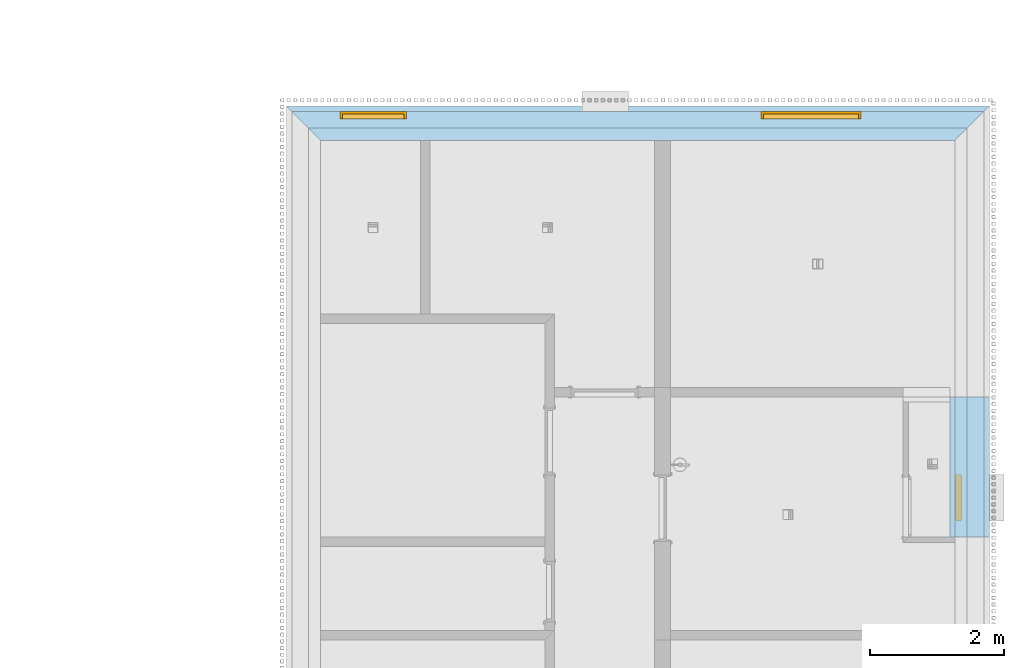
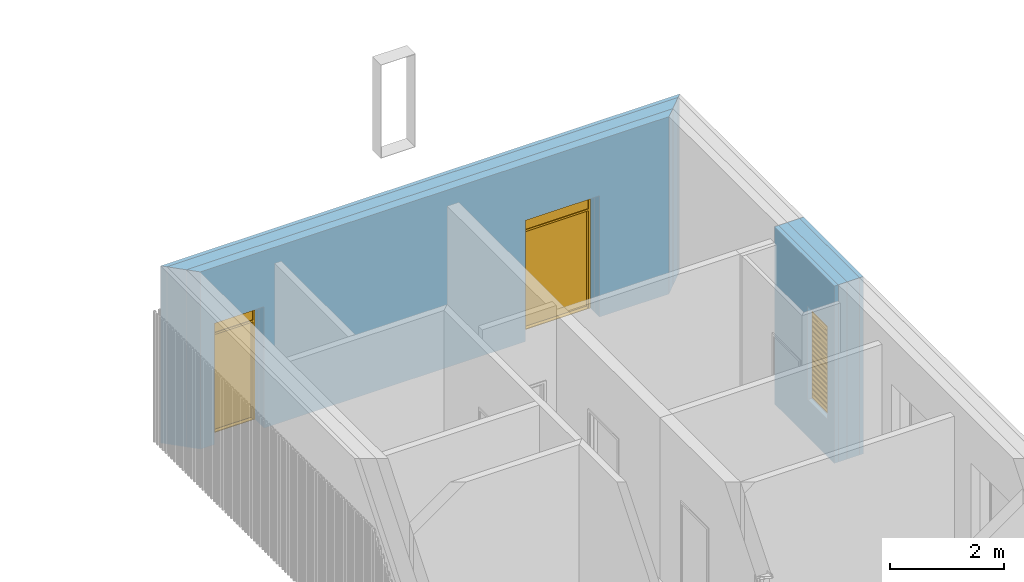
# One storey, part 57 of 112: 2 doors, 1 window, 3 openings, 2 elements without a shape of their own, plus 7 elements that do not belong to this part.
"""IFC2X3 building model written with IfcOpenShell, lengths in millimetres."""

from ifc_helpers import new_model, entity, si_unit, converted_unit, derived_unit, money_unit, direction, frame, origin_with_axes, origin_2d_with_axis, place, context, subcontext, project, spatial, polyline, rectangle, outline, extrude, open_shell, faceted_brep, surface_model, material, type_object, element, fill, aggregate, save


model = new_model("IFC2X3")

# Units and contexts
model_context = context("Model", 3, precision=0.01, world=origin_with_axes(), true_north=direction((0.0, 1.0)))
body_context = subcontext(model_context, "Body", "Model", "MODEL_VIEW")
ifc_project = project(units=[si_unit("LENGTHUNIT", "METRE", prefix="MILLI"), si_unit("AREAUNIT", "SQUARE_METRE"), si_unit("VOLUMEUNIT", "CUBIC_METRE"), converted_unit("PLANEANGLEUNIT", "DEGREE", entity("IfcPlaneAngleMeasure", 0.0174532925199), si_unit("PLANEANGLEUNIT", "RADIAN"), dimensions=[0, 0, 0, 0, 0, 0, 0]), si_unit("SOLIDANGLEUNIT", "STERADIAN"), money_unit("EUR"), converted_unit("TIMEUNIT", "Year", entity("IfcTimeMeasure", 31556926.0), si_unit("TIMEUNIT", "SECOND"), dimensions=[0, 0, 1, 0, 0, 0, 0]), si_unit("MASSUNIT", "GRAM", prefix="KILO"), si_unit("THERMODYNAMICTEMPERATUREUNIT", "DEGREE_CELSIUS"), si_unit("LUMINOUSINTENSITYUNIT", "LUMEN"), si_unit("ENERGYUNIT", "JOULE", prefix="MEGA"), derived_unit("THERMALCONDUCTANCEUNIT", [(si_unit("POWERUNIT", "WATT"), 1), (si_unit("LENGTHUNIT", "METRE"), -1), (si_unit("THERMODYNAMICTEMPERATUREUNIT", "KELVIN"), -1)]), derived_unit("SPECIFICHEATCAPACITYUNIT", [(si_unit("ENERGYUNIT", "JOULE"), 1), (si_unit("MASSUNIT", "GRAM", prefix="KILO"), -1), (si_unit("THERMODYNAMICTEMPERATUREUNIT", "KELVIN"), -1)]), derived_unit("MASSDENSITYUNIT", [(si_unit("MASSUNIT", "GRAM", prefix="KILO"), 1), (si_unit("VOLUMEUNIT", "CUBIC_METRE"), -1)])], contexts=[model_context])

# Site, building, storey
site_placement = place(None, origin_with_axes())
site = spatial("IfcSite", under=ifc_project, at=site_placement, Name="Politse- ja Piirivalveameti ning Päästeameti ühishoone", CompositionType="ELEMENT")
building_placement = place(site_placement, origin_with_axes())
building = spatial("IfcBuilding", under=site, at=building_placement, Name="Politse- ja Piirivalveameti ning Päästeameti ühishoone", CompositionType="ELEMENT")
storey_placement = place(building_placement, origin_with_axes())
storey = spatial("IfcBuildingStorey", under=building, at=storey_placement, Name="Esimene korrus", CompositionType="ELEMENT", Elevation=0.0)

# Door
door_style_1 = type_object("IfcDoorStyle", Name="Double Door with Transom 23", ConstructionType="NOTDEFINED", OperationType="DOUBLE_DOOR_SINGLE_SWING", ParameterTakesPrecedence=False, Sizeable=False)
wall_1_placement = place(storey_placement, frame((69660.5664257, 37499.9521318, 0.0), z_axis=(0.0, 0.0, 1.0), x_axis=(-1.0, 0.0, 0.0)))
opening_1_placement = place(wall_1_placement, frame((2160.47469608, 0.0, 0.0), z_axis=(0.0, 0.0, 1.0), x_axis=(1.0, 0.0, 0.0)))
door_1_placement = place(opening_1_placement, frame((750.0, 0.0, 0.0), z_axis=(0.0, 0.0, 1.0), x_axis=(-1.0, 0.0, 0.0)))
door_1 = element("IfcDoor", 1, at=door_1_placement, inside=storey, type_object=door_style_1, Name="VU-01", ObjectType="DOOR", OverallHeight=2600.0, OverallWidth=1500.0, context=body_context, shape_type="SurfaceModel", body=[
    faceted_brep([(1472.0, 390.0, 0.0), (1472.0, 390.0, 12.0), (1460.0, 390.0, 12.0), (1460.0, 390.0, 0.0), (28.0, 390.0, 0.0), (28.0, 390.0, 12.0), (40.0, 390.0, 12.0), (40.0, 315.0, 12.0), (1460.0, 315.0, 12.0), (1460.0, 315.0, 0.0), (40.0, 315.0, 0.0), (40.0, 390.0, 0.0)], [[[0, 1, 2, 3]], [[4, 5, 1, 0]], [[1, 5, 6, 7, 8, 2]], [[3, 2, 8, 9]], [[0, 3, 9, 10, 11, 4]], [[11, 6, 5, 4]], [[10, 7, 6, 11]], [[9, 8, 7, 10]]]),
    faceted_brep([(40.0, 390.0, 2112.0), (40.0, 430.0, 2112.0), (40.0, 430.0, 2140.0), (40.0, 315.0, 2140.0), (40.0, 315.0, 2100.0), (40.0, 315.0, 0.0), (40.0, 390.0, 0.0), (28.0, 390.0, 2112.0), (28.0, 430.0, 2112.0), (28.0, 430.0, 0.0), (0.0, 430.0, 0.0), (0.0, 430.0, 2560.0), (40.0, 430.0, 2560.0), (40.0, 315.0, 2560.0), (0.0, 315.0, 2560.0), (0.0, 315.0, 0.0), (28.0, 390.0, 0.0)], [[[0, 1, 2, 3, 4, 5, 6]], [[1, 0, 7, 8]], [[8, 9, 10, 11, 12, 2, 1]], [[12, 13, 3, 2]], [[3, 13, 14, 15, 5, 4]], [[16, 6, 5, 15, 10, 9]], [[0, 6, 16, 7]], [[9, 8, 7, 16]], [[10, 15, 14, 11]], [[11, 14, 13, 12]]]),
    faceted_brep([(1472.0, 430.0, 2112.0), (1460.0, 430.0, 2112.0), (1460.0, 430.0, 2140.0), (1460.0, 430.0, 2560.0), (1500.0, 430.0, 2560.0), (1500.0, 430.0, 0.0), (1472.0, 430.0, 0.0), (1472.0, 390.0, 2112.0), (1460.0, 390.0, 2112.0), (1460.0, 390.0, 0.0), (1460.0, 315.0, 0.0), (1460.0, 315.0, 2100.0), (1460.0, 315.0, 2140.0), (1460.0, 315.0, 2560.0), (1500.0, 315.0, 2560.0), (1500.0, 315.0, 0.0), (1472.0, 390.0, 0.0)], [[[0, 1, 2, 3, 4, 5, 6]], [[1, 0, 7, 8]], [[8, 9, 10, 11, 12, 2, 1]], [[2, 12, 13, 3]], [[3, 13, 14, 4]], [[4, 14, 15, 5]], [[16, 6, 5, 15, 10, 9]], [[0, 6, 16, 7]], [[16, 9, 8, 7]], [[12, 11, 10, 15, 14, 13]]]),
    faceted_brep([(0.0, 430.0, 2600.0), (0.0, 430.0, 2560.0), (0.0, 315.0, 2560.0), (0.0, 315.0, 2600.0), (1500.0, 430.0, 2600.0), (1500.0, 430.0, 2560.0), (1460.0, 430.0, 2560.0), (40.0, 430.0, 2560.0), (40.0, 315.0, 2560.0), (1460.0, 315.0, 2560.0), (1500.0, 315.0, 2560.0), (1500.0, 315.0, 2600.0)], [[[0, 1, 2, 3]], [[0, 4, 5, 6, 7, 1]], [[1, 7, 8, 2]], [[3, 2, 8, 9, 10, 11]], [[4, 0, 3, 11]], [[5, 4, 11, 10]], [[6, 5, 10, 9]], [[7, 6, 9, 8]]]),
    faceted_brep([(1460.0, 390.0, 2112.0), (1460.0, 430.0, 2112.0), (1460.0, 430.0, 2140.0), (1460.0, 315.0, 2140.0), (1460.0, 315.0, 2100.0), (1460.0, 390.0, 2100.0), (40.0, 390.0, 2112.0), (40.0, 430.0, 2112.0), (40.0, 430.0, 2140.0), (40.0, 315.0, 2140.0), (40.0, 315.0, 2100.0), (40.0, 390.0, 2100.0)], [[[0, 1, 2, 3, 4, 5]], [[1, 0, 6, 7]], [[1, 7, 8, 2]], [[8, 9, 3, 2]], [[10, 4, 3, 9]], [[11, 5, 4, 10]], [[0, 5, 11, 6]], [[6, 11, 10, 9, 8, 7]]]),
    faceted_brep([(1472.0, 430.0, 0.0), (1472.0, 390.0, 0.0), (900.0, 390.0, 0.0), (900.0, 430.0, 0.0), (1472.0, 430.0, 2112.0), (1472.0, 390.0, 2112.0), (900.0, 390.0, 2112.0), (900.0, 430.0, 2112.0)], [[[0, 1, 2, 3]], [[4, 5, 1, 0]], [[1, 5, 6, 2]], [[3, 2, 6, 7]], [[0, 3, 7, 4]], [[7, 6, 5, 4]]]),
    faceted_brep([(28.0, 430.0, 0.0), (900.0, 430.0, 0.0), (900.0, 390.0, 0.0), (28.0, 390.0, 0.0), (28.0, 430.0, 2112.0), (900.0, 430.0, 2112.0), (900.0, 390.0, 2112.0), (28.0, 390.0, 2112.0)], [[[0, 1, 2, 3]], [[0, 4, 5, 1]], [[1, 5, 6, 2]], [[3, 2, 6, 7]], [[4, 0, 3, 7]], [[5, 4, 7, 6]]]),
    surface_model("IfcShellBasedSurfaceModel", [(40.0, 339.0, 2140.0), (40.0, 339.0, 2560.0), (1460.0, 339.0, 2560.0), (1460.0, 339.0, 2140.0)], [open_shell([[[0, 1, 2, 3]]])]),
    surface_model("IfcShellBasedSurfaceModel", [(40.0, 327.0, 2140.0), (1460.0, 327.0, 2140.0), (1460.0, 327.0, 2560.0), (40.0, 327.0, 2560.0)], [open_shell([[[0, 1, 2, 3]]])]),
])

door_style_2 = type_object("IfcDoorStyle", Name="Door with Transom 23", ConstructionType="NOTDEFINED", OperationType="SINGLE_SWING_LEFT", ParameterTakesPrecedence=False, Sizeable=False)
opening_2_placement = place(wall_1_placement, frame((8710.42417731, 0.0, 0.0), z_axis=(0.0, 0.0, 1.0), x_axis=(1.0, 0.0, 0.0)))
door_2_placement = place(opening_2_placement, frame((500.0, 0.0, 0.0), z_axis=(0.0, 0.0, 1.0), x_axis=(-1.0, 0.0, 0.0)))
door_2 = element("IfcDoor", 2, at=door_2_placement, inside=storey, type_object=door_style_2, Name="VU-06", ObjectType="DOOR", OverallHeight=2600.0, OverallWidth=1000.0, context=body_context, shape_type="SurfaceModel", body=[
    faceted_brep([(28.0, 390.0, 0.0), (40.0, 390.0, 0.0), (40.0, 390.0, 12.0), (28.0, 390.0, 12.0), (972.0, 390.0, 0.0), (960.0, 390.0, 0.0), (960.0, 315.0, 0.0), (40.0, 315.0, 0.0), (40.0, 315.0, 12.0), (960.0, 315.0, 12.0), (960.0, 390.0, 12.0), (972.0, 390.0, 12.0)], [[[0, 1, 2, 3]], [[0, 4, 5, 6, 7, 1]], [[1, 7, 8, 2]], [[3, 2, 8, 9, 10, 11]], [[4, 0, 3, 11]], [[5, 4, 11, 10]], [[6, 5, 10, 9]], [[7, 6, 9, 8]]]),
    faceted_brep([(960.0, 390.0, 2112.0), (960.0, 390.0, 0.0), (960.0, 315.0, 0.0), (960.0, 315.0, 2100.0), (960.0, 315.0, 2140.0), (960.0, 430.0, 2140.0), (960.0, 430.0, 2112.0), (972.0, 390.0, 2112.0), (972.0, 390.0, 0.0), (972.0, 430.0, 0.0), (1000.0, 430.0, 0.0), (1000.0, 315.0, 0.0), (1000.0, 315.0, 2560.0), (960.0, 315.0, 2560.0), (960.0, 430.0, 2560.0), (972.0, 430.0, 2112.0), (1000.0, 430.0, 2560.0)], [[[0, 1, 2, 3, 4, 5, 6]], [[0, 7, 8, 1]], [[8, 9, 10, 11, 2, 1]], [[4, 3, 2, 11, 12, 13]], [[14, 5, 4, 13]], [[15, 6, 5, 14, 16, 10, 9]], [[6, 15, 7, 0]], [[9, 8, 7, 15]], [[10, 16, 12, 11]], [[16, 14, 13, 12]]]),
    faceted_brep([(28.0, 430.0, 2112.0), (28.0, 430.0, 0.0), (0.0, 430.0, 0.0), (0.0, 430.0, 2560.0), (40.0, 430.0, 2560.0), (40.0, 430.0, 2140.0), (40.0, 430.0, 2112.0), (28.0, 390.0, 2112.0), (28.0, 390.0, 0.0), (40.0, 390.0, 0.0), (40.0, 315.0, 0.0), (0.0, 315.0, 0.0), (0.0, 315.0, 2560.0), (40.0, 315.0, 2560.0), (40.0, 315.0, 2140.0), (40.0, 390.0, 2112.0), (40.0, 315.0, 2100.0)], [[[0, 1, 2, 3, 4, 5, 6]], [[0, 7, 8, 1]], [[8, 9, 10, 11, 2, 1]], [[3, 2, 11, 12]], [[4, 3, 12, 13]], [[5, 4, 13, 14]], [[15, 6, 5, 14, 16, 10, 9]], [[6, 15, 7, 0]], [[8, 7, 15, 9]], [[14, 13, 12, 11, 10, 16]]]),
    faceted_brep([(1000.0, 430.0, 2600.0), (1000.0, 315.0, 2600.0), (1000.0, 315.0, 2560.0), (1000.0, 430.0, 2560.0), (0.0, 430.0, 2600.0), (0.0, 315.0, 2600.0), (0.0, 315.0, 2560.0), (40.0, 315.0, 2560.0), (960.0, 315.0, 2560.0), (960.0, 430.0, 2560.0), (40.0, 430.0, 2560.0), (0.0, 430.0, 2560.0)], [[[0, 1, 2, 3]], [[4, 5, 1, 0]], [[1, 5, 6, 7, 8, 2]], [[3, 2, 8, 9]], [[0, 3, 9, 10, 11, 4]], [[11, 6, 5, 4]], [[10, 7, 6, 11]], [[9, 8, 7, 10]]]),
    faceted_brep([(40.0, 390.0, 2112.0), (40.0, 390.0, 2100.0), (40.0, 315.0, 2100.0), (40.0, 315.0, 2140.0), (40.0, 430.0, 2140.0), (40.0, 430.0, 2112.0), (960.0, 390.0, 2112.0), (960.0, 390.0, 2100.0), (960.0, 315.0, 2100.0), (960.0, 315.0, 2140.0), (960.0, 430.0, 2140.0), (960.0, 430.0, 2112.0)], [[[0, 1, 2, 3, 4, 5]], [[0, 6, 7, 1]], [[7, 8, 2, 1]], [[8, 9, 3, 2]], [[10, 4, 3, 9]], [[5, 4, 10, 11]], [[5, 11, 6, 0]], [[6, 11, 10, 9, 8, 7]]]),
    faceted_brep([(28.0, 430.0, 0.0), (972.0, 430.0, 0.0), (972.0, 390.0, 0.0), (28.0, 390.0, 0.0), (28.0, 430.0, 2112.0), (972.0, 430.0, 2112.0), (972.0, 390.0, 2112.0), (28.0, 390.0, 2112.0)], [[[0, 1, 2, 3]], [[0, 4, 5, 1]], [[1, 5, 6, 2]], [[3, 2, 6, 7]], [[4, 0, 3, 7]], [[5, 4, 7, 6]]]),
    surface_model("IfcShellBasedSurfaceModel", [(960.0, 339.0, 2140.0), (40.0, 339.0, 2140.0), (40.0, 339.0, 2560.0), (960.0, 339.0, 2560.0)], [open_shell([[[0, 1, 2, 3]]])]),
    surface_model("IfcShellBasedSurfaceModel", [(960.0, 327.0, 2140.0), (960.0, 327.0, 2560.0), (40.0, 327.0, 2560.0), (40.0, 327.0, 2140.0)], [open_shell([[[0, 1, 2, 3]]])]),
])

# Window
window_style = type_object("IfcWindowStyle", Name="Glass Block Wall 23", ConstructionType="NOTDEFINED", OperationType="USERDEFINED", ParameterTakesPrecedence=False, Sizeable=False)
wall_2_placement = place(storey_placement, frame((69660.5664204, 33660.0702441, 0.0), z_axis=(0.0, 0.0, 1.0), x_axis=(0.0, -1.0, 0.0)))
opening_3_placement = place(wall_2_placement, frame((1510.0, 0.0, 800.0), z_axis=(0.0, 0.0, 1.0), x_axis=(1.0, 0.0, 0.0)))
window_placement = place(opening_3_placement, frame((350.0, 0.0, 0.0), z_axis=(0.0, 0.0, 1.0), x_axis=(-1.0, 0.0, 0.0)))
window = element("IfcWindow", 3, at=window_placement, inside=storey, type_object=window_style, Name="VR-01", ObjectType="WINDOW", OverallHeight=2000.0, OverallWidth=700.0, context=body_context, shape_type="Brep", body=[
    faceted_brep([(700.0, -14.0, 0.0), (700.0, -84.0, 0.0), (0.0, -84.0, 0.0), (0.0, -14.0, 0.0), (700.0, -14.0, 2000.0), (700.0, -84.0, 2000.0), (0.0, -84.0, 2000.0), (675.0, -84.0, 30.0), (25.0, -84.0, 30.0), (25.0, -84.0, 103.684210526), (675.0, -84.0, 103.684210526), (675.0, -84.0, 133.684210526), (25.0, -84.0, 133.684210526), (25.0, -84.0, 207.368421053), (675.0, -84.0, 207.368421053), (675.0, -84.0, 237.368421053), (25.0, -84.0, 237.368421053), (25.0, -84.0, 311.052631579), (675.0, -84.0, 311.052631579), (675.0, -84.0, 341.052631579), (25.0, -84.0, 341.052631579), (25.0, -84.0, 414.736842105), (675.0, -84.0, 414.736842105), (675.0, -84.0, 444.736842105), (25.0, -84.0, 444.736842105), (25.0, -84.0, 518.421052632), (675.0, -84.0, 518.421052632), (675.0, -84.0, 548.421052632), (25.0, -84.0, 548.421052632), (25.0, -84.0, 622.105263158), (675.0, -84.0, 622.105263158), (675.0, -84.0, 652.105263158), (25.0, -84.0, 652.105263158), (25.0, -84.0, 725.789473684), (675.0, -84.0, 725.789473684), (675.0, -84.0, 755.789473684), (25.0, -84.0, 755.789473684), (25.0, -84.0, 829.473684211), (675.0, -84.0, 829.473684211), (675.0, -84.0, 859.473684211), (25.0, -84.0, 859.473684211), (25.0, -84.0, 933.157894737), (675.0, -84.0, 933.157894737), (675.0, -84.0, 963.157894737), (25.0, -84.0, 963.157894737), (25.0, -84.0, 1036.84210526), (675.0, -84.0, 1036.84210526), (675.0, -84.0, 1066.84210526), (25.0, -84.0, 1066.84210526), (25.0, -84.0, 1140.52631579), (675.0, -84.0, 1140.52631579), (675.0, -84.0, 1170.52631579), (25.0, -84.0, 1170.52631579), (25.0, -84.0, 1244.21052632), (675.0, -84.0, 1244.21052632), (675.0, -84.0, 1274.21052632), (25.0, -84.0, 1274.21052632), (25.0, -84.0, 1347.89473684), (675.0, -84.0, 1347.89473684), (675.0, -84.0, 1377.89473684), (25.0, -84.0, 1377.89473684), (25.0, -84.0, 1451.57894737), (675.0, -84.0, 1451.57894737), (675.0, -84.0, 1481.57894737), (25.0, -84.0, 1481.57894737), (25.0, -84.0, 1555.26315789), (675.0, -84.0, 1555.26315789), (675.0, -84.0, 1585.26315789), (25.0, -84.0, 1585.26315789), (25.0, -84.0, 1658.94736842), (675.0, -84.0, 1658.94736842), (675.0, -84.0, 1688.94736842), (25.0, -84.0, 1688.94736842), (25.0, -84.0, 1762.63157895), (675.0, -84.0, 1762.63157895), (675.0, -84.0, 1792.63157895), (25.0, -84.0, 1792.63157895), (25.0, -84.0, 1866.31578947), (675.0, -84.0, 1866.31578947), (675.0, -84.0, 1896.31578947), (25.0, -84.0, 1896.31578947), (25.0, -84.0, 1970.0), (675.0, -84.0, 1970.0), (0.0, -14.0, 2000.0), (675.0, -14.0, 30.0), (675.0, -14.0, 103.684210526), (25.0, -14.0, 103.684210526), (25.0, -14.0, 30.0), (675.0, -14.0, 133.684210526), (675.0, -14.0, 207.368421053), (25.0, -14.0, 207.368421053), (25.0, -14.0, 133.684210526), (675.0, -14.0, 237.368421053), (675.0, -14.0, 311.052631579), (25.0, -14.0, 311.052631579), (25.0, -14.0, 237.368421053), (675.0, -14.0, 341.052631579), (675.0, -14.0, 414.736842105), (25.0, -14.0, 414.736842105), (25.0, -14.0, 341.052631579), (675.0, -14.0, 444.736842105), (675.0, -14.0, 518.421052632), (25.0, -14.0, 518.421052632), (25.0, -14.0, 444.736842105), (675.0, -14.0, 548.421052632), (675.0, -14.0, 622.105263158), (25.0, -14.0, 622.105263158), (25.0, -14.0, 548.421052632), (675.0, -14.0, 652.105263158), (675.0, -14.0, 725.789473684), (25.0, -14.0, 725.789473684), (25.0, -14.0, 652.105263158), (675.0, -14.0, 755.789473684), (675.0, -14.0, 829.473684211), (25.0, -14.0, 829.473684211), (25.0, -14.0, 755.789473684), (675.0, -14.0, 859.473684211), (675.0, -14.0, 933.157894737), (25.0, -14.0, 933.157894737), (25.0, -14.0, 859.473684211), (675.0, -14.0, 963.157894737), (675.0, -14.0, 1036.84210526), (25.0, -14.0, 1036.84210526), (25.0, -14.0, 963.157894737), (675.0, -14.0, 1066.84210526), (675.0, -14.0, 1140.52631579), (25.0, -14.0, 1140.52631579), (25.0, -14.0, 1066.84210526), (675.0, -14.0, 1170.52631579), (675.0, -14.0, 1244.21052632), (25.0, -14.0, 1244.21052632), (25.0, -14.0, 1170.52631579), (675.0, -14.0, 1274.21052632), (675.0, -14.0, 1347.89473684), (25.0, -14.0, 1347.89473684), (25.0, -14.0, 1274.21052632), (675.0, -14.0, 1377.89473684), (675.0, -14.0, 1451.57894737), (25.0, -14.0, 1451.57894737), (25.0, -14.0, 1377.89473684), (675.0, -14.0, 1481.57894737), (675.0, -14.0, 1555.26315789), (25.0, -14.0, 1555.26315789), (25.0, -14.0, 1481.57894737), (675.0, -14.0, 1585.26315789), (675.0, -14.0, 1658.94736842), (25.0, -14.0, 1658.94736842), (25.0, -14.0, 1585.26315789), (675.0, -14.0, 1688.94736842), (675.0, -14.0, 1762.63157895), (25.0, -14.0, 1762.63157895), (25.0, -14.0, 1688.94736842), (675.0, -14.0, 1792.63157895), (675.0, -14.0, 1866.31578947), (25.0, -14.0, 1866.31578947), (25.0, -14.0, 1792.63157895), (675.0, -14.0, 1896.31578947), (675.0, -14.0, 1970.0), (25.0, -14.0, 1970.0), (25.0, -14.0, 1896.31578947)], [[[0, 1, 2, 3]], [[4, 5, 1, 0]], [[1, 5, 6, 2], [7, 8, 9, 10], [11, 12, 13, 14], [15, 16, 17, 18], [19, 20, 21, 22], [23, 24, 25, 26], [27, 28, 29, 30], [31, 32, 33, 34], [35, 36, 37, 38], [39, 40, 41, 42], [43, 44, 45, 46], [47, 48, 49, 50], [51, 52, 53, 54], [55, 56, 57, 58], [59, 60, 61, 62], [63, 64, 65, 66], [67, 68, 69, 70], [71, 72, 73, 74], [75, 76, 77, 78], [79, 80, 81, 82]], [[3, 2, 6, 83]], [[0, 3, 83, 4], [84, 85, 86, 87], [88, 89, 90, 91], [92, 93, 94, 95], [96, 97, 98, 99], [100, 101, 102, 103], [104, 105, 106, 107], [108, 109, 110, 111], [112, 113, 114, 115], [116, 117, 118, 119], [120, 121, 122, 123], [124, 125, 126, 127], [128, 129, 130, 131], [132, 133, 134, 135], [136, 137, 138, 139], [140, 141, 142, 143], [144, 145, 146, 147], [148, 149, 150, 151], [152, 153, 154, 155], [156, 157, 158, 159]], [[83, 6, 5, 4]], [[87, 8, 7, 84]], [[86, 9, 8, 87]], [[85, 10, 9, 86]], [[84, 7, 10, 85]], [[91, 12, 11, 88]], [[90, 13, 12, 91]], [[89, 14, 13, 90]], [[88, 11, 14, 89]], [[95, 16, 15, 92]], [[94, 17, 16, 95]], [[93, 18, 17, 94]], [[92, 15, 18, 93]], [[99, 20, 19, 96]], [[98, 21, 20, 99]], [[97, 22, 21, 98]], [[96, 19, 22, 97]], [[103, 24, 23, 100]], [[102, 25, 24, 103]], [[101, 26, 25, 102]], [[100, 23, 26, 101]], [[107, 28, 27, 104]], [[106, 29, 28, 107]], [[105, 30, 29, 106]], [[104, 27, 30, 105]], [[111, 32, 31, 108]], [[110, 33, 32, 111]], [[109, 34, 33, 110]], [[108, 31, 34, 109]], [[115, 36, 35, 112]], [[114, 37, 36, 115]], [[113, 38, 37, 114]], [[112, 35, 38, 113]], [[119, 40, 39, 116]], [[118, 41, 40, 119]], [[117, 42, 41, 118]], [[116, 39, 42, 117]], [[123, 44, 43, 120]], [[122, 45, 44, 123]], [[121, 46, 45, 122]], [[120, 43, 46, 121]], [[127, 48, 47, 124]], [[126, 49, 48, 127]], [[125, 50, 49, 126]], [[124, 47, 50, 125]], [[131, 52, 51, 128]], [[130, 53, 52, 131]], [[129, 54, 53, 130]], [[128, 51, 54, 129]], [[135, 56, 55, 132]], [[134, 57, 56, 135]], [[133, 58, 57, 134]], [[132, 55, 58, 133]], [[139, 60, 59, 136]], [[138, 61, 60, 139]], [[137, 62, 61, 138]], [[136, 59, 62, 137]], [[143, 64, 63, 140]], [[142, 65, 64, 143]], [[141, 66, 65, 142]], [[140, 63, 66, 141]], [[147, 68, 67, 144]], [[146, 69, 68, 147]], [[145, 70, 69, 146]], [[144, 67, 70, 145]], [[151, 72, 71, 148]], [[150, 73, 72, 151]], [[149, 74, 73, 150]], [[148, 71, 74, 149]], [[155, 76, 75, 152]], [[154, 77, 76, 155]], [[153, 78, 77, 154]], [[152, 75, 78, 153]], [[159, 80, 79, 156]], [[158, 81, 80, 159]], [[157, 82, 81, 158]], [[156, 79, 82, 157]]]),
    faceted_brep([(675.0, 2.0, 30.0), (675.0, -100.0, 30.0), (25.0, -100.0, 30.0), (25.0, 2.0, 30.0), (675.0, 2.0, 103.684210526), (675.0, -100.0, 103.684210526), (25.0, -100.0, 103.684210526), (25.0, 2.0, 103.684210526)], [[[0, 1, 2, 3]], [[4, 5, 1, 0]], [[1, 5, 6, 2]], [[3, 2, 6, 7]], [[0, 3, 7, 4]], [[7, 6, 5, 4]]]),
    faceted_brep([(675.0, 2.0, 133.684210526), (675.0, -100.0, 133.684210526), (25.0, -100.0, 133.684210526), (25.0, 2.0, 133.684210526), (675.0, 2.0, 207.368421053), (675.0, -100.0, 207.368421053), (25.0, -100.0, 207.368421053), (25.0, 2.0, 207.368421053)], [[[0, 1, 2, 3]], [[4, 5, 1, 0]], [[1, 5, 6, 2]], [[3, 2, 6, 7]], [[0, 3, 7, 4]], [[7, 6, 5, 4]]]),
    faceted_brep([(675.0, 2.0, 237.368421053), (675.0, -100.0, 237.368421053), (25.0, -100.0, 237.368421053), (25.0, 2.0, 237.368421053), (675.0, 2.0, 311.052631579), (675.0, -100.0, 311.052631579), (25.0, -100.0, 311.052631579), (25.0, 2.0, 311.052631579)], [[[0, 1, 2, 3]], [[4, 5, 1, 0]], [[1, 5, 6, 2]], [[3, 2, 6, 7]], [[0, 3, 7, 4]], [[7, 6, 5, 4]]]),
    faceted_brep([(675.0, 2.0, 341.052631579), (675.0, -100.0, 341.052631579), (25.0, -100.0, 341.052631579), (25.0, 2.0, 341.052631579), (675.0, 2.0, 414.736842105), (675.0, -100.0, 414.736842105), (25.0, -100.0, 414.736842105), (25.0, 2.0, 414.736842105)], [[[0, 1, 2, 3]], [[4, 5, 1, 0]], [[1, 5, 6, 2]], [[3, 2, 6, 7]], [[0, 3, 7, 4]], [[7, 6, 5, 4]]]),
    faceted_brep([(675.0, 2.0, 444.736842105), (675.0, -100.0, 444.736842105), (25.0, -100.0, 444.736842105), (25.0, 2.0, 444.736842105), (675.0, 2.0, 518.421052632), (675.0, -100.0, 518.421052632), (25.0, -100.0, 518.421052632), (25.0, 2.0, 518.421052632)], [[[0, 1, 2, 3]], [[4, 5, 1, 0]], [[1, 5, 6, 2]], [[3, 2, 6, 7]], [[0, 3, 7, 4]], [[7, 6, 5, 4]]]),
    faceted_brep([(675.0, 2.0, 548.421052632), (675.0, -100.0, 548.421052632), (25.0, -100.0, 548.421052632), (25.0, 2.0, 548.421052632), (675.0, 2.0, 622.105263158), (675.0, -100.0, 622.105263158), (25.0, -100.0, 622.105263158), (25.0, 2.0, 622.105263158)], [[[0, 1, 2, 3]], [[4, 5, 1, 0]], [[1, 5, 6, 2]], [[3, 2, 6, 7]], [[0, 3, 7, 4]], [[7, 6, 5, 4]]]),
    faceted_brep([(675.0, 2.0, 652.105263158), (675.0, -100.0, 652.105263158), (25.0, -100.0, 652.105263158), (25.0, 2.0, 652.105263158), (675.0, 2.0, 725.789473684), (675.0, -100.0, 725.789473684), (25.0, -100.0, 725.789473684), (25.0, 2.0, 725.789473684)], [[[0, 1, 2, 3]], [[4, 5, 1, 0]], [[1, 5, 6, 2]], [[3, 2, 6, 7]], [[0, 3, 7, 4]], [[7, 6, 5, 4]]]),
    faceted_brep([(675.0, 2.0, 755.789473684), (675.0, -100.0, 755.789473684), (25.0, -100.0, 755.789473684), (25.0, 2.0, 755.789473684), (675.0, 2.0, 829.473684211), (675.0, -100.0, 829.473684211), (25.0, -100.0, 829.473684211), (25.0, 2.0, 829.473684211)], [[[0, 1, 2, 3]], [[4, 5, 1, 0]], [[1, 5, 6, 2]], [[3, 2, 6, 7]], [[0, 3, 7, 4]], [[7, 6, 5, 4]]]),
    faceted_brep([(675.0, 2.0, 859.473684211), (675.0, -100.0, 859.473684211), (25.0, -100.0, 859.473684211), (25.0, 2.0, 859.473684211), (675.0, 2.0, 933.157894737), (675.0, -100.0, 933.157894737), (25.0, -100.0, 933.157894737), (25.0, 2.0, 933.157894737)], [[[0, 1, 2, 3]], [[4, 5, 1, 0]], [[1, 5, 6, 2]], [[3, 2, 6, 7]], [[0, 3, 7, 4]], [[7, 6, 5, 4]]]),
    faceted_brep([(675.0, 2.0, 963.157894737), (675.0, -100.0, 963.157894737), (25.0, -100.0, 963.157894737), (25.0, 2.0, 963.157894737), (675.0, 2.0, 1036.84210526), (675.0, -100.0, 1036.84210526), (25.0, -100.0, 1036.84210526), (25.0, 2.0, 1036.84210526)], [[[0, 1, 2, 3]], [[4, 5, 1, 0]], [[1, 5, 6, 2]], [[3, 2, 6, 7]], [[0, 3, 7, 4]], [[7, 6, 5, 4]]]),
    faceted_brep([(675.0, 2.0, 1066.84210526), (675.0, -100.0, 1066.84210526), (25.0, -100.0, 1066.84210526), (25.0, 2.0, 1066.84210526), (675.0, 2.0, 1140.52631579), (675.0, -100.0, 1140.52631579), (25.0, -100.0, 1140.52631579), (25.0, 2.0, 1140.52631579)], [[[0, 1, 2, 3]], [[4, 5, 1, 0]], [[1, 5, 6, 2]], [[3, 2, 6, 7]], [[0, 3, 7, 4]], [[7, 6, 5, 4]]]),
    faceted_brep([(675.0, 2.0, 1170.52631579), (675.0, -100.0, 1170.52631579), (25.0, -100.0, 1170.52631579), (25.0, 2.0, 1170.52631579), (675.0, 2.0, 1244.21052632), (675.0, -100.0, 1244.21052632), (25.0, -100.0, 1244.21052632), (25.0, 2.0, 1244.21052632)], [[[0, 1, 2, 3]], [[4, 5, 1, 0]], [[1, 5, 6, 2]], [[3, 2, 6, 7]], [[0, 3, 7, 4]], [[7, 6, 5, 4]]]),
    faceted_brep([(675.0, 2.0, 1274.21052632), (675.0, -100.0, 1274.21052632), (25.0, -100.0, 1274.21052632), (25.0, 2.0, 1274.21052632), (675.0, 2.0, 1347.89473684), (675.0, -100.0, 1347.89473684), (25.0, -100.0, 1347.89473684), (25.0, 2.0, 1347.89473684)], [[[0, 1, 2, 3]], [[4, 5, 1, 0]], [[1, 5, 6, 2]], [[3, 2, 6, 7]], [[0, 3, 7, 4]], [[7, 6, 5, 4]]]),
    faceted_brep([(675.0, 2.0, 1377.89473684), (675.0, -100.0, 1377.89473684), (25.0, -100.0, 1377.89473684), (25.0, 2.0, 1377.89473684), (675.0, 2.0, 1451.57894737), (675.0, -100.0, 1451.57894737), (25.0, -100.0, 1451.57894737), (25.0, 2.0, 1451.57894737)], [[[0, 1, 2, 3]], [[4, 5, 1, 0]], [[1, 5, 6, 2]], [[3, 2, 6, 7]], [[0, 3, 7, 4]], [[7, 6, 5, 4]]]),
    faceted_brep([(675.0, 2.0, 1481.57894737), (675.0, -100.0, 1481.57894737), (25.0, -100.0, 1481.57894737), (25.0, 2.0, 1481.57894737), (675.0, 2.0, 1555.26315789), (675.0, -100.0, 1555.26315789), (25.0, -100.0, 1555.26315789), (25.0, 2.0, 1555.26315789)], [[[0, 1, 2, 3]], [[4, 5, 1, 0]], [[1, 5, 6, 2]], [[3, 2, 6, 7]], [[0, 3, 7, 4]], [[7, 6, 5, 4]]]),
    faceted_brep([(675.0, 2.0, 1585.26315789), (675.0, -100.0, 1585.26315789), (25.0, -100.0, 1585.26315789), (25.0, 2.0, 1585.26315789), (675.0, 2.0, 1658.94736842), (675.0, -100.0, 1658.94736842), (25.0, -100.0, 1658.94736842), (25.0, 2.0, 1658.94736842)], [[[0, 1, 2, 3]], [[4, 5, 1, 0]], [[1, 5, 6, 2]], [[3, 2, 6, 7]], [[0, 3, 7, 4]], [[7, 6, 5, 4]]]),
    faceted_brep([(675.0, 2.0, 1688.94736842), (675.0, -100.0, 1688.94736842), (25.0, -100.0, 1688.94736842), (25.0, 2.0, 1688.94736842), (675.0, 2.0, 1762.63157895), (675.0, -100.0, 1762.63157895), (25.0, -100.0, 1762.63157895), (25.0, 2.0, 1762.63157895)], [[[0, 1, 2, 3]], [[4, 5, 1, 0]], [[1, 5, 6, 2]], [[3, 2, 6, 7]], [[0, 3, 7, 4]], [[7, 6, 5, 4]]]),
    faceted_brep([(675.0, 2.0, 1792.63157895), (675.0, -100.0, 1792.63157895), (25.0, -100.0, 1792.63157895), (25.0, 2.0, 1792.63157895), (675.0, 2.0, 1866.31578947), (675.0, -100.0, 1866.31578947), (25.0, -100.0, 1866.31578947), (25.0, 2.0, 1866.31578947)], [[[0, 1, 2, 3]], [[4, 5, 1, 0]], [[1, 5, 6, 2]], [[3, 2, 6, 7]], [[0, 3, 7, 4]], [[7, 6, 5, 4]]]),
    faceted_brep([(675.0, 2.0, 1896.31578947), (675.0, -100.0, 1896.31578947), (25.0, -100.0, 1896.31578947), (25.0, 2.0, 1896.31578947), (675.0, 2.0, 1970.0), (675.0, -100.0, 1970.0), (25.0, -100.0, 1970.0), (25.0, 2.0, 1970.0)], [[[0, 1, 2, 3]], [[4, 5, 1, 0]], [[1, 5, 6, 2]], [[3, 2, 6, 7]], [[0, 3, 7, 4]], [[7, 6, 5, 4]]]),
])

# Wall, opening
wall_type_1 = type_object("IfcWallType", Name="VS-01_välissein 510", PredefinedType="NOTDEFINED")
wall_1 = element("IfcWall", 4, at=wall_1_placement, inside=storey, type_object=wall_type_1, Name="VS-01")
opening_1 = element("IfcOpeningElement", 5, at=opening_1_placement, cuts=wall_1, Name="VU-01", context=body_context, shape_type="SweptSolid", body=[
    extrude(rectangle(XDim=1500.0, YDim=2600.0, at=origin_2d_with_axis()), frame((0.0, -430.0, 1300.0), z_axis=(0.0, -1.0, 0.0), x_axis=(-1.0, 0.0, 0.0)), (0.0, 0.0, -1.0), 940.0),
    extrude(rectangle(XDim=1500.0, YDim=2600.0, at=origin_2d_with_axis()), frame((0.0, -430.0, 1300.0), z_axis=(0.0, 1.0, 0.0), x_axis=(-1.0, 0.0, 0.0)), (0.0, 0.0, -1.0), 590.0),
])

fill(opening_1, door_1)

# Opening
opening_2 = element("IfcOpeningElement", 6, at=opening_2_placement, cuts=wall_1, Name="VU-06", context=body_context, shape_type="SweptSolid", body=[
    extrude(rectangle(XDim=1000.0, YDim=2600.0, at=origin_2d_with_axis()), frame((0.0, -430.0, 1300.0), z_axis=(0.0, 1.0, 0.0), x_axis=(1.0, 0.0, 0.0)), (0.0, 0.0, 1.0), 940.0),
    extrude(rectangle(XDim=1000.0, YDim=2600.0, at=origin_2d_with_axis()), frame((0.0, -430.0, 1300.0), z_axis=(0.0, -1.0, 0.0), x_axis=(1.0, 0.0, 0.0)), (0.0, 0.0, 1.0), 590.0),
])

fill(opening_2, door_2)

# Building element part
ifc_material_1 = material(Name="KON-04_Betoon - Konstuktsioon")
building_element_part_1_placement = place(wall_1_placement, origin_with_axes())
building_element_part_1 = element("IfcBuildingElementPart", 7, at=building_element_part_1_placement, material=ifc_material_1, Name="KON-04_Betoon - Konstuktsioon", context=body_context, shape_type="SweptSolid", body=[
    extrude(outline(polyline([(-180.0, -180.0), (9680.01451389, -180.0), (9500.01451389, 0.0), (0.0, 0.0), (-180.0, -180.0)])), origin_with_axes(), (0.0, 0.0, 1.0), 3800.0),
])

ifc_material_2 = material(Name="SOJ-06_Soojustus - Plastik Kõva")
building_element_part_2_placement = place(wall_1_placement, origin_with_axes())
building_element_part_2 = element("IfcBuildingElementPart", 8, at=building_element_part_2_placement, material=ifc_material_2, Name="SOJ-06_Soojustus - Plastik Kõva", context=body_context, shape_type="SweptSolid", body=[
    extrude(outline(polyline([(-430.0, -430.0), (9930.01451389, -430.0), (9680.01451389, -180.0), (-180.0, -180.0), (-430.0, -430.0)])), origin_with_axes(), (0.0, 0.0, 1.0), 3800.0),
])

building_element_part_3_placement = place(wall_1_placement, origin_with_axes())
building_element_part_3 = element("IfcBuildingElementPart", 9, at=building_element_part_3_placement, material=ifc_material_1, Name="KON-04_Betoon - Konstuktsioon", context=body_context, shape_type="SweptSolid", body=[
    extrude(outline(polyline([(-510.0, -510.0), (10010.0145139, -510.0), (9930.01451389, -430.0), (-430.0, -430.0), (-510.0, -510.0)])), origin_with_axes(), (0.0, 0.0, 1.0), 3800.0),
])

aggregate(wall_1, [building_element_part_1, building_element_part_2, building_element_part_3])

# Wall, opening
wall_type_2 = type_object("IfcWallType", Name="VS-13_välissein õhuvõtt 590", PredefinedType="NOTDEFINED")
wall_2 = element("IfcWall", 10, at=wall_2_placement, inside=storey, type_object=wall_type_2, Name="VS-13")
opening_3 = element("IfcOpeningElement", 11, at=opening_3_placement, cuts=wall_2, Name="VR-01", context=body_context, shape_type="SweptSolid", body=[
    extrude(rectangle(XDim=700.0, YDim=2000.0, at=origin_2d_with_axis()), frame((0.0, 100.0, 1000.0), z_axis=(0.0, 1.0, 0.0), x_axis=(1.0, 0.0, 0.0)), (0.0, 0.0, 1.0), 1000.0),
    extrude(rectangle(XDim=700.0, YDim=2000.0, at=origin_2d_with_axis()), frame((0.0, 100.0, 1000.0), z_axis=(0.0, -1.0, 0.0), x_axis=(1.0, 0.0, 0.0)), (0.0, 0.0, 1.0), 770.0),
])

fill(opening_3, window)

# Building element part
ifc_material_3 = material(Name="SOJ-02_Soojustus - Fiiber Kõva")
building_element_part_4_placement = place(wall_2_placement, origin_with_axes())
building_element_part_4 = element("IfcBuildingElementPart", 12, at=building_element_part_4_placement, material=ifc_material_3, Name="SOJ-02_Soojustus - Fiiber Kõva", context=body_context, shape_type="SweptSolid", body=[
    extrude(outline(polyline([(0.0, -80.0), (2099.87163543, -80.0), (2099.87163543, 0.0), (0.0, 0.0), (0.0, -80.0)])), origin_with_axes(), (0.0, 0.0, 1.0), 3800.0),
])

building_element_part_5_placement = place(wall_2_placement, origin_with_axes())
building_element_part_5 = element("IfcBuildingElementPart", 13, at=building_element_part_5_placement, material=ifc_material_1, Name="KON-04_Betoon - Konstuktsioon", context=body_context, shape_type="SweptSolid", body=[
    extrude(outline(polyline([(0.0, 0.0), (2099.87163543, 0.0), (2099.87163543, 180.0), (0.0, 180.0), (0.0, 0.0)])), origin_with_axes(), (0.0, 0.0, 1.0), 3800.0),
])

building_element_part_6_placement = place(wall_2_placement, origin_with_axes())
building_element_part_6 = element("IfcBuildingElementPart", 14, at=building_element_part_6_placement, material=ifc_material_2, Name="SOJ-06_Soojustus - Plastik Kõva", context=body_context, shape_type="SweptSolid", body=[
    extrude(outline(polyline([(0.0, 180.0), (2099.87163543, 180.0), (2099.87163543, 430.0), (0.0, 430.0), (0.0, 180.0)])), origin_with_axes(), (0.0, 0.0, 1.0), 3800.0),
])

building_element_part_7_placement = place(wall_2_placement, origin_with_axes())
building_element_part_7 = element("IfcBuildingElementPart", 15, at=building_element_part_7_placement, material=ifc_material_1, Name="KON-04_Betoon - Konstuktsioon", context=body_context, shape_type="SweptSolid", body=[
    extrude(outline(polyline([(0.0, 430.0), (2099.87163543, 430.0), (2099.87163543, 510.0), (0.0, 510.0), (0.0, 430.0)])), origin_with_axes(), (0.0, 0.0, 1.0), 3800.0),
])

aggregate(wall_2, [building_element_part_4, building_element_part_5, building_element_part_6, building_element_part_7])

save(model, "model.ifc")
